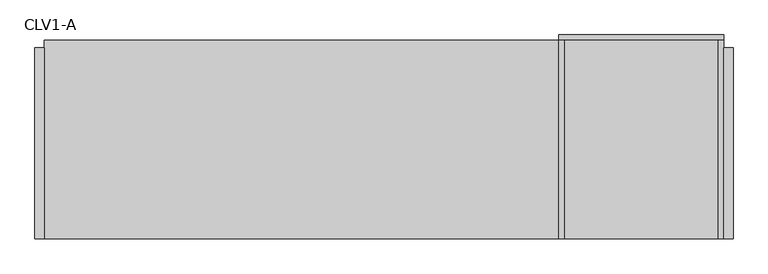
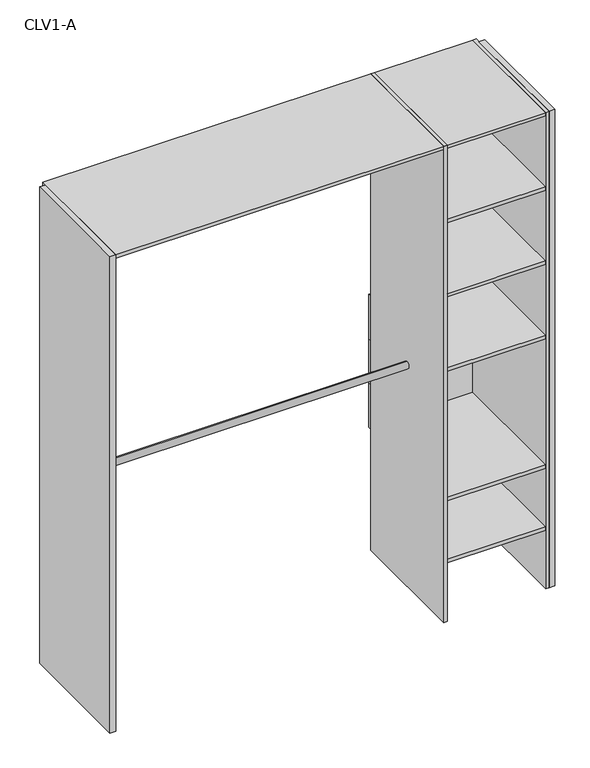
"""IFC4 building model written with IfcOpenShell, lengths in millimetres: furniture geometry, Closet 1estantes-1tubos_2 laterales : CLV1-A."""

import ifcopenshell
import ifcopenshell.guid

model = None  # the IFC model being written
_history = None  # IfcOwnerHistory: only IFC2X3 demands one
_inside = {}  # id of a spatial element -> (the spatial element, [elements in it])
_under = {}  # id of a project, library or spatial element -> (it, [spatial elements below it])
_declared = {}  # id of a project -> (the project, [libraries it declares])
_typed = {}  # id of a type object -> (the type object, [elements of that type])
_made_of = {}  # id of a material, layer set ... -> (it, [elements and type objects made of it])


def new_model(schema):
    """Start an empty IFC model of exactly this schema.

    Asked for "IFC4X3", IfcOpenShell would pick the latest addendum, in which some entities
    have other attributes; the version numbers below select the first issue.
    IFC2X3 requires an IfcOwnerHistory on every rooted entity: one is made here for all.
    """
    global model, _history
    if schema == "IFC4X3":
        model = ifcopenshell.file(schema_version=(4, 3, 0, 0))
    else:
        model = ifcopenshell.file(schema=schema)
    _inside.clear()
    _under.clear()
    _declared.clear()
    _typed.clear()
    _made_of.clear()
    _history = None
    if model.schema == "IFC2X3":
        org = make("IfcOrganization", Name="unknown")
        user = make(
            "IfcPersonAndOrganization",
            ThePerson=make("IfcPerson", FamilyName="unknown"),
            TheOrganization=org,
        )
        app = make(
            "IfcApplication",
            ApplicationDeveloper=org,
            Version="unknown",
            ApplicationFullName="unknown",
            ApplicationIdentifier="unknown",
        )
        _history = make(
            "IfcOwnerHistory",
            OwningUser=user,
            OwningApplication=app,
            ChangeAction="ADDED",
            CreationDate=0,
        )
    return model


def make(cls, **values):
    """One entity of the class cls with the attributes given. An attribute that is None is left unset."""
    return model.create_entity(
        cls, **{name: value for name, value in values.items() if value is not None}
    )


def rooted(cls, **values):
    """An entity with a GlobalId (a new one), such as an element, a storey or a relation."""
    return make(cls, GlobalId=ifcopenshell.guid.new(), OwnerHistory=_history, **values)


def si_unit(unit_type, name, prefix=None):
    """IfcSIUnit, for example si_unit("LENGTHUNIT", "METRE", prefix="MILLI")."""
    return make("IfcSIUnit", UnitType=unit_type, Prefix=prefix, Name=name)


def assignment(units):
    """IfcUnitAssignment: the units of a project."""
    return None if units is None else make("IfcUnitAssignment", Units=units)


def point(xyz):
    """IfcCartesianPoint."""
    return None if xyz is None else make("IfcCartesianPoint", Coordinates=xyz)


def direction(xyz):
    """IfcDirection."""
    return None if xyz is None else make("IfcDirection", DirectionRatios=xyz)


def frame(location, z_axis=None, x_axis=None):
    """IfcAxis2Placement3D, a coordinate frame: its origin and axes. An axis left out is left unset."""
    return make(
        "IfcAxis2Placement3D",
        Location=point(location),
        Axis=direction(z_axis),
        RefDirection=direction(x_axis),
    )


def frame_2d(location, x_axis=None):
    """IfcAxis2Placement2D, a coordinate frame in the plane: its origin and x axis."""
    return make(
        "IfcAxis2Placement2D", Location=point(location), RefDirection=direction(x_axis)
    )


def origin():
    """The frame at (0, 0, 0) with its axes left unset."""
    return frame((0.0, 0.0, 0.0))


def origin_with_axes():
    """The frame at (0, 0, 0) with the z axis (0, 0, 1) and the x axis (1, 0, 0) written out."""
    return frame((0.0, 0.0, 0.0), z_axis=(0.0, 0.0, 1.0), x_axis=(1.0, 0.0, 0.0))


def place(relative_to, where):
    """IfcLocalPlacement: puts the frame where relative to a parent placement (None: the world)."""
    return make(
        "IfcLocalPlacement", PlacementRelTo=relative_to, RelativePlacement=where
    )


def context(
    kind, dimensions, precision=None, world=None, true_north=None, identifier=None
):
    """IfcGeometricRepresentationContext, for example the 3D "Model" context."""
    return make(
        "IfcGeometricRepresentationContext",
        ContextIdentifier=identifier,
        ContextType=kind,
        CoordinateSpaceDimension=dimensions,
        Precision=precision,
        WorldCoordinateSystem=world,
        TrueNorth=true_north,
    )


def project(units=None, contexts=None):
    """IfcProject with its units and contexts."""
    return rooted(
        "IfcProject",
        Name="project",
        RepresentationContexts=contexts,
        UnitsInContext=assignment(units),
    )


def spatial(cls, under=None, at=None, **own):
    """A site, building, storey or space (cls), placed at a placement, below another one or the project."""
    s = rooted(cls, ObjectPlacement=at, **own)
    if under is not None:
        _under.setdefault(under.id(), (under, []))[1].append(s)
    return s


def polyline(points):
    """IfcPolyline through the points."""
    return make("IfcPolyline", Points=[point(p) for p in points])


def circle_curve(where, radius):
    """IfcCircle in the frame where."""
    return make("IfcCircle", Position=where, Radius=radius)


def trimmed(basis, trim1, trim2, sense, master):
    """IfcTrimmedCurve: the piece of a basis curve between two trims."""
    return make(
        "IfcTrimmedCurve",
        BasisCurve=basis,
        Trim1=trim1,
        Trim2=trim2,
        SenseAgreement=sense,
        MasterRepresentation=master,
    )


def segment(curve, same_sense, transition):
    """IfcCompositeCurveSegment."""
    return make(
        "IfcCompositeCurveSegment",
        Transition=transition,
        SameSense=same_sense,
        ParentCurve=curve,
    )


def composite_curve(segments, self_intersect=None):
    """IfcCompositeCurve: segments joined end to end."""
    return make("IfcCompositeCurve", Segments=segments, SelfIntersect=self_intersect)


def outline(outer, holes=None, kind="AREA"):
    """IfcArbitraryClosedProfileDef: a profile drawn as a closed curve; with holes, ...WithVoids."""
    if holes is None:
        return make("IfcArbitraryClosedProfileDef", ProfileType=kind, OuterCurve=outer)
    return make(
        "IfcArbitraryProfileDefWithVoids",
        ProfileType=kind,
        OuterCurve=outer,
        InnerCurves=holes,
    )


def extrude(swept, where, along, depth):
    """IfcExtrudedAreaSolid: the profile swept, set in the frame where, extruded along a direction by depth."""
    return make(
        "IfcExtrudedAreaSolid",
        SweptArea=swept,
        Position=where,
        ExtrudedDirection=direction(along),
        Depth=depth,
    )


def shape(context_of_items, identifier, shape_type, items):
    """IfcShapeRepresentation: the items that make up one representation, for example the "Body"."""
    return make(
        "IfcShapeRepresentation",
        ContextOfItems=context_of_items,
        RepresentationIdentifier=identifier,
        RepresentationType=shape_type,
        Items=items,
    )


def source(mapping_origin, context_of_items, identifier, shape_type, items):
    """IfcRepresentationMap: a shape defined once, which mapped items show again and again."""
    return make(
        "IfcRepresentationMap",
        MappingOrigin=mapping_origin,
        MappedRepresentation=shape(context_of_items, identifier, shape_type, items),
    )


def transform(
    local_origin,
    x_axis=None,
    y_axis=None,
    z_axis=None,
    scale=None,
    scale2=None,
    scale3=None,
    uniform=True,
):
    """IfcCartesianTransformationOperator3D, or its non-uniform kind. x_axis, y_axis, z_axis: its Axis1, 2, 3."""
    if uniform:
        return make(
            "IfcCartesianTransformationOperator3D",
            Axis1=direction(x_axis),
            Axis2=direction(y_axis),
            LocalOrigin=point(local_origin),
            Scale=scale,
            Axis3=direction(z_axis),
        )
    return make(
        "IfcCartesianTransformationOperator3DnonUniform",
        Axis1=direction(x_axis),
        Axis2=direction(y_axis),
        LocalOrigin=point(local_origin),
        Scale=scale,
        Axis3=direction(z_axis),
        Scale2=scale2,
        Scale3=scale3,
    )


def mapped(mapping_source, mapping_target):
    """IfcMappedItem: shows the shape of a source again, moved by a transform."""
    return make(
        "IfcMappedItem", MappingSource=mapping_source, MappingTarget=mapping_target
    )


def made_of(thing, what):
    """Note that an element or type object is made of a material, layer set ...; save() writes the relation."""
    if what is not None:
        _made_of.setdefault(what.id(), (what, []))[1].append(thing)
    return thing


def element(
    cls,
    number,
    at=None,
    inside=None,
    cuts=None,
    type_object=None,
    material=None,
    context=None,
    identifier="Body",
    shape_type=None,
    held_by="IfcProductDefinitionShape",
    body=None,
    shapes=None,
    **own,
):
    """One element of the class cls, such as IfcWall. Its Tag is "e" and its number.

    at: its placement. inside: the storey or other place that contains it. cuts: it is an
    opening in that element (IfcRelVoidsElement). A single representation is given by context,
    identifier, shape_type and body (its items); several are given by shapes. held_by: the class
    of the entity that holds the representations. save() writes the other relations.
    """
    e = rooted(cls, Tag="e%d" % number, ObjectPlacement=at, **own)
    if body is not None:
        shapes = [shape(context, identifier, shape_type, body)]
    if shapes is not None:
        e.Representation = make(held_by, Representations=shapes)
    if inside is not None:
        _inside.setdefault(inside.id(), (inside, []))[1].append(e)
    if cuts is not None:
        rooted(
            "IfcRelVoidsElement", RelatingBuildingElement=cuts, RelatedOpeningElement=e
        )
    if type_object is not None:
        _typed.setdefault(type_object.id(), (type_object, []))[1].append(e)
    return made_of(e, material)


def aggregate(whole, parts):
    """IfcRelAggregates: a whole, such as a stair, and the parts it consists of."""
    return rooted("IfcRelAggregates", RelatingObject=whole, RelatedObjects=parts)


def save(model, path):
    """Write the relations noted so far, then the file.

    IfcRelAggregates (storeys below a building ...), IfcRelContainedInSpatialStructure (elements
    in a storey), IfcRelDefinesByType, IfcRelAssociatesMaterial and IfcRelDeclares: one each for
    every whole, place, type object, material and project.
    """
    for whole, parts in _under.values():
        aggregate(whole, parts)
    for where, things in _inside.values():
        rooted(
            "IfcRelContainedInSpatialStructure",
            RelatedElements=things,
            RelatingStructure=where,
        )
    for kind, things in _typed.values():
        rooted("IfcRelDefinesByType", RelatedObjects=things, RelatingType=kind)
    for what, things in _made_of.values():
        rooted("IfcRelAssociatesMaterial", RelatedObjects=things, RelatingMaterial=what)
    for by, libraries in _declared.values():
        rooted("IfcRelDeclares", RelatingContext=by, RelatedDefinitions=libraries)
    model.write(path)


def clv1_a_31b5327c(model_context):
    return source(origin(), model_context, "Body", "SweptSolid", [
        extrude(outline(polyline([(-1625.2516668, -80.0), (-1625.2516668, -600.0), (-1650.2516668, -600.0), (-1650.2516668, -80.0), (-1625.2516668, -80.0)])), origin_with_axes(), (0.0, 0.0, 1.0), 2150.0),
        extrude(outline(polyline([(250.0, -80.0), (250.0, -600.0), (225.0, -600.0), (225.0, -80.0), (250.0, -80.0)])), origin_with_axes(), (0.0, 0.0, 1.0), 2150.0),
        extrude(outline(polyline([(225.0, -60.0), (225.0, -600.0), (210.0, -600.0), (210.0, -60.0), (225.0, -60.0)])), origin_with_axes(), (0.0, 0.0, 1.0), 2150.0),
        extrude(outline(polyline([(-210.0, -60.0), (-210.0, -600.0), (-225.0, -600.0), (-225.0, -60.0), (-210.0, -60.0)])), origin_with_axes(), (0.0, 0.0, 1.0), 2150.0),
        extrude(outline(polyline([(225.0, -60.0), (-225.0, -60.0), (-225.0, -45.0), (225.0, -45.0), (225.0, -60.0)])), frame((0.0, 0.0, 945.0), z_axis=(0.0, 0.0, 1.0), x_axis=(1.0, 0.0, 0.0)), (0.0, 0.0, 1.0), 200.0),
        extrude(outline(polyline([(225.0, -60.0), (-225.0, -60.0), (-225.0, -45.0), (225.0, -45.0), (225.0, -60.0)])), frame((0.0, 0.0, 745.0), z_axis=(0.0, 0.0, 1.0), x_axis=(1.0, 0.0, 0.0)), (0.0, 0.0, 1.0), 200.0),
        extrude(outline(polyline([(225.0, -60.0), (-225.0, -60.0), (-225.0, -45.0), (225.0, -45.0), (225.0, -60.0)])), frame((0.0, 0.0, 545.0), z_axis=(0.0, 0.0, 1.0), x_axis=(1.0, 0.0, 0.0)), (0.0, 0.0, 1.0), 200.0),
        extrude(outline(polyline([(210.0, -60.0), (210.0, -600.0), (-210.0, -600.0), (-210.0, -60.0), (210.0, -60.0)])), frame((0.0, 0.0, 1130.0), z_axis=(0.0, 0.0, 1.0), x_axis=(1.0, 0.0, 0.0)), (0.0, 0.0, 1.0), 15.0),
        extrude(outline(composite_curve([segment(trimmed(circle_curve(frame_2d((-330.0, 2000.0)), 15.0), [point((-330.0, 2015.0))], [point((-330.0, 1985.0))], False, "CARTESIAN"), True, "CONTINUOUS"), segment(trimmed(circle_curve(frame_2d((-330.0, 2000.0)), 15.0), [point((-330.0, 1985.0))], [point((-330.0, 2015.0))], False, "CARTESIAN"), True, "CONTINUOUS")], self_intersect=False)), frame((-1625.2516668, 0.0, 0.0), z_axis=(1.0, 0.0, 0.0), x_axis=(0.0, 1.0, 0.0)), (0.0, 0.0, 1.0), 1400.2516668),
        extrude(outline(composite_curve([segment(trimmed(circle_curve(frame_2d((-330.0, 1000.0)), 15.0), [point((-330.0, 1015.0))], [point((-330.0, 985.0))], False, "CARTESIAN"), True, "CONTINUOUS"), segment(trimmed(circle_curve(frame_2d((-330.0, 1000.0)), 15.0), [point((-330.0, 985.0))], [point((-330.0, 1015.0))], False, "CARTESIAN"), True, "CONTINUOUS")], self_intersect=False)), frame((-1625.2516668, 0.0, 0.0), z_axis=(1.0, 0.0, 0.0), x_axis=(0.0, 1.0, 0.0)), (0.0, 0.0, 1.0), 1400.2516668),
        extrude(outline(polyline([(210.0, -60.0), (210.0, -600.0), (-210.0, -600.0), (-210.0, -60.0), (210.0, -60.0)])), frame((0.0, 0.0, 265.0), z_axis=(0.0, 0.0, 1.0), x_axis=(1.0, 0.0, 0.0)), (0.0, 0.0, 1.0), 15.0),
        extrude(outline(polyline([(210.0, -60.0), (210.0, -600.0), (-210.0, -600.0), (-210.0, -60.0), (210.0, -60.0)])), frame((0.0, 0.0, 545.0), z_axis=(0.0, 0.0, 1.0), x_axis=(1.0, 0.0, 0.0)), (0.0, 0.0, 1.0), 15.0),
        extrude(outline(polyline([(210.0, -60.0), (210.0, -600.0), (-210.0, -600.0), (-210.0, -60.0), (210.0, -60.0)])), frame((0.0, 0.0, 1465.0), z_axis=(0.0, 0.0, 1.0), x_axis=(1.0, 0.0, 0.0)), (0.0, 0.0, 1.0), 15.0),
        extrude(outline(polyline([(210.0, -60.0), (210.0, -600.0), (-210.0, -600.0), (-210.0, -60.0), (210.0, -60.0)])), frame((0.0, 0.0, 1800.0), z_axis=(0.0, 0.0, 1.0), x_axis=(1.0, 0.0, 0.0)), (0.0, 0.0, 1.0), 15.0),
        extrude(outline(polyline([(-210.0, -60.0), (-210.0, -600.0), (-1625.2516668, -600.0), (-1625.2516668, -60.0), (-210.0, -60.0)])), frame((0.0, 0.0, 2135.0), z_axis=(0.0, 0.0, 1.0), x_axis=(1.0, 0.0, 0.0)), (0.0, 0.0, 1.0), 15.0),
        extrude(outline(polyline([(210.0, -60.0), (210.0, -600.0), (-210.0, -600.0), (-210.0, -60.0), (210.0, -60.0)])), frame((0.0, 0.0, 2135.0), z_axis=(0.0, 0.0, 1.0), x_axis=(1.0, 0.0, 0.0)), (0.0, 0.0, 1.0), 15.0),
    ])


if __name__ == "__main__":
    model = new_model("IFC4")
    model_context = context("Model", 3, world=origin())
    ifc_project = project(units=[si_unit("LENGTHUNIT", "METRE", prefix="MILLI")], contexts=[model_context])
    site = spatial("IfcSite", under=ifc_project)
    building = spatial("IfcBuilding", under=site)
    placement = place(None, origin())
    clv1_a_shape = clv1_a_31b5327c(model_context)
    element("IfcFurniture", 1, ObjectType="Closet 1estantes-1tubos_2 laterales : CLV1-A", at=placement, inside=building, context=model_context, shape_type="MappedRepresentation", body=[
        mapped(clv1_a_shape, transform((0.0, 0.0, 0.0), x_axis=(1.0, 0.0, 0.0), y_axis=(0.0, 1.0, 0.0), z_axis=(0.0, 0.0, 1.0))),
    ])
    save(model, "model.ifc")
